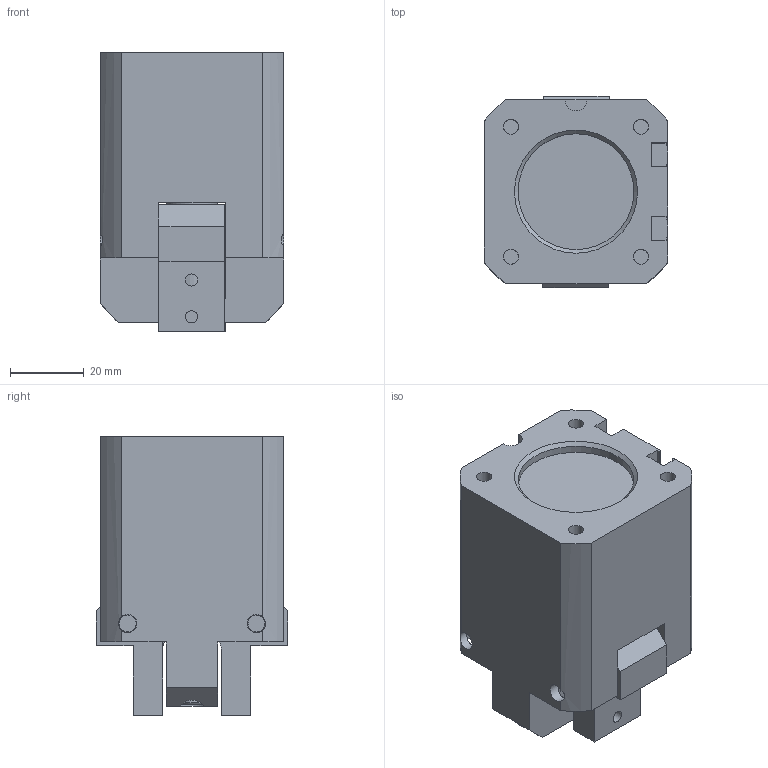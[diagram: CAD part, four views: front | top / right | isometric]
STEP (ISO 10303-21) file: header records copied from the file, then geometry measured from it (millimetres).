
FILE_DESCRIPTION(/* description */ (''),/* implementation_level */ '2;1');
FILE_NAME(/* name */ 'T:\CAD\Standard\Daten\3D-Datenbank\GZ\4 - 3D-CAD-Daten GZ 050-125\GZ063\step-Daten\G-GZ063-IO.stp',/* time_stamp */ '2016-11-10T19:36:18+01:00',/* author */ ('hcanti'),/* organization */ (''),/* preprocessor_version */ 'ST-DEVELOPER v15.2',/* originating_system */ 'Autodesk Inventor 2014',/* authorisation */ '');
FILE_SCHEMA (('CONFIG_CONTROL_DESIGN'));
Length unit declared in the file: millimetre
Products named in the file (1): Bauteil4
Bounding box: 50 x 52 x 75.9 mm (x, y, z)
Volume: 116378.6 mm3; surface area: 45982.2 mm2
Topology: 1 solids, 18 shells, 379 faces, 979 edges, 633 vertices
Faces by surface type: plane 191, cylinder 109, torus 40, cone 39
Full cylindrical faces by diameter (mm): 2.05 x1, 3.3 x6, 4 x2, 4.134 x6, 4.2 x1, 4.5 x2, 5 x15, 5.02 x2, 5.5 x4, 6.75 x1, 7 x2, 8 x3, 8.5 x5, 9 x2, 9.95 x2, 10 x6, 13.95 x1, 14 x1, 15.9 x1, 16 x1, 18.6 x1, 21.1 x1, 24.9 x1, 25 x1, 28.9 x1, 31.5 x1, 35.5 x2, 39.95 x1, 40 x3
Entity records: 11115 total; most frequent: CARTESIAN_POINT 2502, DIRECTION 1684, ORIENTED_EDGE 1480, EDGE_CURVE 739, AXIS2_PLACEMENT_3D 661, EDGE_LOOP 602, VERTEX_POINT 545, STYLED_ITEM 380
